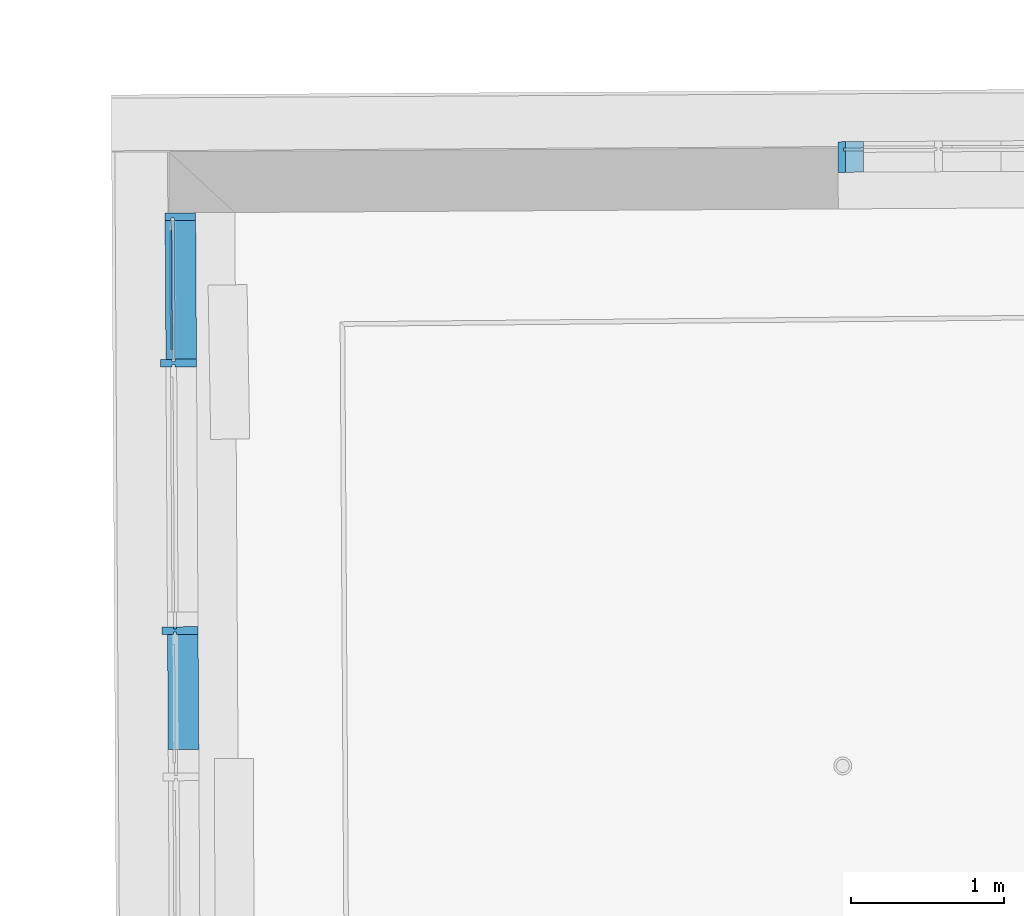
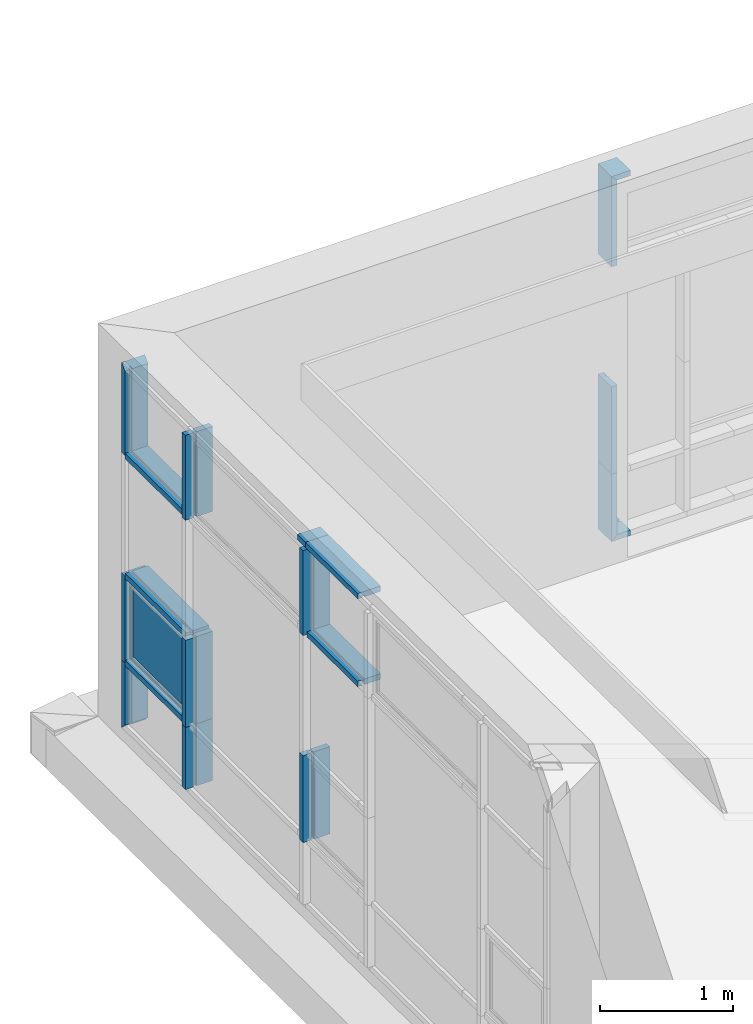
# One storey, part 126 of 158: 20 building element parts, 2 elements without a shape of their own.
"""IFC2X3 building model written with IfcOpenShell, lengths in metres."""

from ifc_helpers import new_model, entity, si_unit, converted_unit, derived_unit, money_unit, direction, frame, origin_with_axes, place, context, subcontext, project, spatial, faceted_brep, material, type_object, element, aggregate, save


model = new_model("IFC2X3")

# Units and contexts
model_context = context("Model", 3, precision=1e-05, world=origin_with_axes(), true_north=direction((0.0, 1.0)))
body_context = subcontext(model_context, "Body", "Model", "MODEL_VIEW")
ifc_project = project(units=[si_unit("LENGTHUNIT", "METRE"), si_unit("AREAUNIT", "SQUARE_METRE"), si_unit("VOLUMEUNIT", "CUBIC_METRE"), converted_unit("PLANEANGLEUNIT", "DEGREE", entity("IfcPlaneAngleMeasure", 0.0174532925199), si_unit("PLANEANGLEUNIT", "RADIAN"), dimensions=[0, 0, 0, 0, 0, 0, 0]), money_unit("EUR"), converted_unit("TIMEUNIT", "Year", entity("IfcTimeMeasure", 31556926.0), si_unit("TIMEUNIT", "SECOND"), dimensions=[0, 0, 1, 0, 0, 0, 0]), si_unit("MASSUNIT", "GRAM", prefix="KILO"), si_unit("THERMODYNAMICTEMPERATUREUNIT", "DEGREE_CELSIUS"), si_unit("LUMINOUSINTENSITYUNIT", "LUMEN"), si_unit("ENERGYUNIT", "JOULE", prefix="MEGA"), derived_unit("THERMALCONDUCTANCEUNIT", [(si_unit("POWERUNIT", "WATT"), 1), (si_unit("LENGTHUNIT", "METRE"), -1), (si_unit("THERMODYNAMICTEMPERATUREUNIT", "KELVIN"), -1)]), derived_unit("SPECIFICHEATCAPACITYUNIT", [(si_unit("ENERGYUNIT", "JOULE"), 1), (si_unit("MASSUNIT", "GRAM", prefix="KILO"), -1), (si_unit("THERMODYNAMICTEMPERATUREUNIT", "KELVIN"), -1)]), derived_unit("MASSDENSITYUNIT", [(si_unit("MASSUNIT", "GRAM", prefix="KILO"), 1), (si_unit("VOLUMEUNIT", "CUBIC_METRE"), -1)])], contexts=[model_context])

# Site, building, storey
site_placement = place(None, origin_with_axes())
site = spatial("IfcSite", under=ifc_project, at=site_placement, Name="Gelände", CompositionType="ELEMENT")
building_placement = place(site_placement, origin_with_axes())
building = spatial("IfcBuilding", under=site, at=building_placement, Name="Gebäude", CompositionType="ELEMENT")
storey_placement = place(building_placement, origin_with_axes())
storey = spatial("IfcBuildingStorey", under=building, at=storey_placement, Name="ERDGESCHOSS", CompositionType="ELEMENT", Elevation=0.0)

# Proxy, building element parts
building_element_proxy_type = type_object("IfcBuildingElementProxyType", Name="Fassadentyp", PredefinedType="NOTDEFINED")
proxy_1_placement = place(storey_placement, frame((-29.8344261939, 53.9291673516, 1.34043902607), z_axis=(0.0, 0.0, 1.0), x_axis=(1.0, 0.0, 0.0)))
proxy_1 = element("IfcBuildingElementProxy", 1, at=proxy_1_placement, inside=storey, type_object=building_element_proxy_type, Name="Fassade-002")
ifc_material_1 = material(Name="53_Metall, Aluminium")
building_element_part_1_placement = place(proxy_1_placement, origin_with_axes())
building_element_part_1 = element("IfcBuildingElementPart", 2, at=building_element_part_1_placement, material=ifc_material_1, Name="53_Metall, Aluminium", context=body_context, shape_type="Brep", body=[
    faceted_brep([(-0.702597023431, -0.0140975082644, 0.0349999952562), (-0.702713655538, 0.00590215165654, 0.0349999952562), (-0.687713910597, 0.00598962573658, 0.0499999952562), (-0.687947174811, 0.0459889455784, 0.0499999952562), (-0.737946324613, 0.0456973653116, -4.74376693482e-09), (-0.736780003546, -0.154299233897, -4.74376693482e-09), (-0.686780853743, -0.154007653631, 0.0499999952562), (-0.68759727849, -0.0140100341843, 0.0499999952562), (-0.571921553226, -0.013335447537, 0.0349999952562), (-0.572038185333, 0.00666421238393, 0.0349999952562), (-0.572038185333, 0.00666421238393, 0.0499999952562), (-0.572271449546, 0.0466635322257, 0.0499999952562), (-0.572271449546, 0.0466635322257, -4.74376693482e-09), (-0.571105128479, -0.153333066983, -4.74376693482e-09), (-0.571105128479, -0.153333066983, 0.0499999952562), (-0.571921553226, -0.013335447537, 0.0499999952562)], [[[0, 1, 2, 3, 4, 5, 6, 7]], [[1, 0, 8, 9]], [[10, 2, 1, 9]], [[2, 10, 11, 3]], [[12, 4, 3, 11]], [[13, 5, 4, 12]], [[14, 6, 5, 13]], [[15, 7, 6, 14]], [[0, 7, 15, 8]], [[8, 15, 14, 13, 12, 11, 10, 9]]]),
])
building_element_part_2_placement = place(proxy_1_placement, origin_with_axes())
building_element_part_2 = element("IfcBuildingElementPart", 3, at=building_element_part_2_placement, material=ifc_material_1, Name="53_Metall, Aluminium", context=body_context, shape_type="Brep", body=[
    faceted_brep([(-0.702597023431, -0.0140975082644, 3.31499994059), (-0.68759727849, -0.0140100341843, 3.29999994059), (-0.686780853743, -0.154007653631, 3.29999994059), (-0.736780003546, -0.154299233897, 3.34999994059), (-0.737946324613, 0.0456973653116, 3.34999994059), (-0.687947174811, 0.0459889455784, 3.29999994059), (-0.687713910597, 0.00598962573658, 3.29999994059), (-0.702713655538, 0.00590215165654, 3.31499994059), (-0.571921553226, -0.013335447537, 3.31499994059), (-0.571921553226, -0.013335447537, 3.29999994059), (-0.571105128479, -0.153333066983, 3.29999994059), (-0.571105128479, -0.153333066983, 3.34999994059), (-0.572271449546, 0.0466635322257, 3.34999994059), (-0.572271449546, 0.0466635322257, 3.29999994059), (-0.572038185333, 0.00666421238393, 3.29999994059), (-0.572038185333, 0.00666421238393, 3.31499994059)], [[[0, 1, 2, 3, 4, 5, 6, 7]], [[0, 8, 9, 1]], [[9, 10, 2, 1]], [[10, 11, 3, 2]], [[11, 12, 4, 3]], [[12, 13, 5, 4]], [[6, 5, 13, 14]], [[14, 15, 7, 6]], [[7, 15, 8, 0]], [[8, 15, 14, 13, 12, 11, 10, 9]]]),
])
building_element_part_3_placement = place(proxy_1_placement, origin_with_axes())
building_element_part_3 = element("IfcBuildingElementPart", 4, at=building_element_part_3_placement, material=ifc_material_1, Name="53_Metall, Aluminium", context=body_context, shape_type="Brep", body=[
    faceted_brep([(-0.702597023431, -0.0140975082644, 1.42000003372), (-0.702713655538, 0.00590215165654, 1.42000003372), (-0.687713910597, 0.00598962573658, 1.42000003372), (-0.687947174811, 0.0459889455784, 1.42000003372), (-0.737946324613, 0.0456973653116, 1.42000003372), (-0.736780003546, -0.154299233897, 1.42000003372), (-0.686780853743, -0.154007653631, 1.42000003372), (-0.68759727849, -0.0140100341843, 1.42000003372), (-0.702597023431, -0.0140975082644, 0.620000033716), (-0.702713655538, 0.00590215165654, 0.620000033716), (-0.687713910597, 0.00598962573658, 0.620000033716), (-0.687947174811, 0.0459889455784, 0.620000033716), (-0.737946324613, 0.0456973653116, 0.620000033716), (-0.736780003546, -0.154299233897, 0.620000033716), (-0.686780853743, -0.154007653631, 0.620000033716), (-0.68759727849, -0.0140100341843, 0.620000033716)], [[[0, 1, 2, 3, 4, 5, 6, 7]], [[1, 0, 8, 9]], [[10, 2, 1, 9]], [[2, 10, 11, 3]], [[12, 4, 3, 11]], [[13, 5, 4, 12]], [[14, 6, 5, 13]], [[15, 7, 6, 14]], [[0, 7, 15, 8]], [[8, 15, 14, 13, 12, 11, 10, 9]]]),
])
building_element_part_4_placement = place(proxy_1_placement, origin_with_axes())
building_element_part_4 = element("IfcBuildingElementPart", 5, at=building_element_part_4_placement, material=ifc_material_1, Name="53_Metall, Aluminium", context=body_context, shape_type="Brep", body=[
    faceted_brep([(-0.702597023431, -0.0140975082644, 0.620000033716), (-0.702713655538, 0.00590215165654, 0.620000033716), (-0.687713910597, 0.00598962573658, 0.620000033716), (-0.687947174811, 0.0459889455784, 0.620000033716), (-0.737946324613, 0.0456973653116, 0.620000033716), (-0.736780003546, -0.154299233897, 0.620000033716), (-0.686780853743, -0.154007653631, 0.620000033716), (-0.68759727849, -0.0140100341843, 0.620000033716), (-0.702597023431, -0.0140975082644, 0.0349999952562), (-0.702713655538, 0.00590215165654, 0.0349999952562), (-0.687713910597, 0.00598962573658, 0.0499999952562), (-0.687947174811, 0.0459889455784, 0.0499999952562), (-0.737946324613, 0.0456973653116, -4.74376649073e-09), (-0.736780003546, -0.154299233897, -4.74376848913e-09), (-0.686780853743, -0.154007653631, 0.0499999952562), (-0.68759727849, -0.0140100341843, 0.0499999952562)], [[[0, 1, 2, 3, 4, 5, 6, 7]], [[1, 0, 8, 9]], [[10, 2, 1, 9]], [[2, 10, 11, 3]], [[4, 3, 11, 12]], [[5, 4, 12, 13]], [[6, 5, 13, 14]], [[15, 7, 6, 14]], [[0, 7, 15, 8]], [[8, 15, 14, 13, 12, 11, 10, 9]]]),
])
building_element_part_5_placement = place(proxy_1_placement, origin_with_axes())
building_element_part_5 = element("IfcBuildingElementPart", 6, at=building_element_part_5_placement, material=ifc_material_1, Name="53_Metall, Aluminium", context=body_context, shape_type="Brep", body=[
    faceted_brep([(-0.702597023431, -0.0140975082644, 3.31499994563), (-0.702713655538, 0.00590215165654, 3.31499994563), (-0.687713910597, 0.00598962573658, 3.29999994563), (-0.687947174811, 0.0459889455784, 3.29999994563), (-0.737946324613, 0.0456973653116, 3.34999994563), (-0.736780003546, -0.154299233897, 3.34999994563), (-0.686780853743, -0.154007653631, 3.29999994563), (-0.68759727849, -0.0140100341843, 3.29999994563), (-0.702597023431, -0.0140975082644, 2.52000003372), (-0.702713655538, 0.00590215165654, 2.52000003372), (-0.687713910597, 0.00598962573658, 2.52000003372), (-0.687947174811, 0.0459889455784, 2.52000003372), (-0.737946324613, 0.0456973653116, 2.52000003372), (-0.736780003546, -0.154299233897, 2.52000003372), (-0.686780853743, -0.154007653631, 2.52000003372), (-0.68759727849, -0.0140100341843, 2.52000003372)], [[[0, 1, 2, 3, 4, 5, 6, 7]], [[1, 0, 8, 9]], [[10, 2, 1, 9]], [[2, 10, 11, 3]], [[12, 4, 3, 11]], [[13, 5, 4, 12]], [[14, 6, 5, 13]], [[15, 7, 6, 14]], [[0, 7, 15, 8]], [[8, 15, 14, 13, 12, 11, 10, 9]]]),
])
aggregate(proxy_1, [building_element_part_1, building_element_part_2, building_element_part_3, building_element_part_4, building_element_part_5])

proxy_2_placement = place(storey_placement, frame((-34.889376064, 47.589579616, 1.34043902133), z_axis=(0.0, 0.0, 1.0), x_axis=(1.0, 0.0, 0.0)))
proxy_2 = element("IfcBuildingElementProxy", 7, at=proxy_2_placement, inside=storey, type_object=building_element_proxy_type, Name="Fassade-002")
ifc_material_2 = material(Name="45_Glas, Normalglas")
building_element_part_6_placement = place(proxy_2_placement, origin_with_axes())
building_element_part_6 = element("IfcBuildingElementPart", 8, at=building_element_part_6_placement, material=ifc_material_2, Name="45_Glas, Normalglas", context=body_context, shape_type="Brep", body=[
    faceted_brep([(-0.0540455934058, 5.80499457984, 0.710000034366), (-0.0380458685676, 5.80508841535, 0.710000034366), (-0.0334856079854, 5.02752654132, 0.710000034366), (-0.0494853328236, 5.02743270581, 0.710000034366), (-0.0540455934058, 5.80499457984, 1.33000004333), (-0.0380458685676, 5.80508841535, 1.33000004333), (-0.0334856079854, 5.02752654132, 1.33000004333), (-0.0494853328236, 5.02743270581, 1.33000004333)], [[[0, 1, 2, 3]], [[4, 5, 1, 0]], [[1, 5, 6, 2]], [[3, 2, 6, 7]], [[0, 3, 7, 4]], [[7, 6, 5, 4]]]),
])
building_element_part_7_placement = place(proxy_2_placement, origin_with_axes())
building_element_part_7 = element("IfcBuildingElementPart", 9, at=building_element_part_7_placement, material=ifc_material_1, Name="53_Metall, Aluminium", context=body_context, shape_type="Brep", body=[
    faceted_brep([(-0.0245152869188, 5.88516915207, 1.42000003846), (-0.0244273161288, 5.87016941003, 1.42000003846), (0.115570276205, 5.87099047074, 1.42000003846), (0.115277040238, 5.92098961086, 1.42000003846), (-0.0847195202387, 5.91981666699, 1.42000003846), (-0.084426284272, 5.86981752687, 1.42000003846), (-0.0444269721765, 5.87005211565, 1.42000003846), (-0.0445149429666, 5.88505185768, 1.42000003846), (-0.0245152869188, 5.88516915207, 0.620000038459), (-0.0244273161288, 5.87016941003, 0.620000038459), (0.115570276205, 5.87099047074, 0.620000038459), (0.115277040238, 5.92098961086, 0.620000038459), (-0.0847195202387, 5.91981666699, 0.620000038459), (-0.084426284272, 5.86981752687, 0.620000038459), (-0.0444269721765, 5.87005211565, 0.620000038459), (-0.0445149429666, 5.88505185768, 0.620000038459)], [[[0, 1, 2, 3, 4, 5, 6, 7]], [[0, 8, 9, 1]], [[9, 10, 2, 1]], [[10, 11, 3, 2]], [[11, 12, 4, 3]], [[12, 13, 5, 4]], [[6, 5, 13, 14]], [[14, 15, 7, 6]], [[7, 15, 8, 0]], [[8, 15, 14, 13, 12, 11, 10, 9]]]),
])
building_element_part_8_placement = place(proxy_2_placement, origin_with_axes())
building_element_part_8 = element("IfcBuildingElementPart", 10, at=building_element_part_8_placement, material=ifc_material_1, Name="53_Metall, Aluminium", context=body_context, shape_type="Brep", body=[
    faceted_brep([(-0.00412493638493, 2.40844695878, 2.51000003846), (-0.00412493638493, 2.40844695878, 2.49500003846), (0.135872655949, 2.40926801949, 2.49500003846), (0.135872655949, 2.40926801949, 2.54500003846), (-0.00412493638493, 2.40844695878, 2.54500003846), (-0.00412493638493, 2.40844695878, 2.53000003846), (-0.0241245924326, 2.40832966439, 2.53000003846), (-0.0241245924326, 2.40832966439, 2.54500003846), (-0.0641239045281, 2.40809507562, 2.54500003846), (-0.0641239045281, 2.40809507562, 2.49500003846), (-0.0241245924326, 2.40832966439, 2.49500003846), (-0.0241245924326, 2.40832966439, 2.51000003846), (-0.00854676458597, 3.16240497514, 2.51000003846), (-0.00854676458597, 3.16240497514, 2.49500003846), (0.131450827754, 3.16322603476, 2.49500003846), (0.131450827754, 3.16322603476, 2.54500003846), (-0.00854676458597, 3.16240497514, 2.54500003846), (-0.00854676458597, 3.16240497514, 2.53000003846), (-0.0285464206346, 3.16228768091, 2.53000003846), (-0.0285464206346, 3.16228768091, 2.54500003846), (-0.0685457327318, 3.16205309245, 2.54500003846), (-0.0685457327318, 3.16205309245, 2.49500003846), (-0.0285464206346, 3.16228768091, 2.49500003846), (-0.0285464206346, 3.16228768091, 2.51000003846)], [[[0, 1, 2, 3, 4, 5, 6, 7, 8, 9, 10, 11]], [[1, 0, 12, 13]], [[1, 13, 14, 2]], [[2, 14, 15, 3]], [[4, 3, 15, 16]], [[4, 16, 17, 5]], [[5, 17, 18, 6]], [[7, 6, 18, 19]], [[19, 20, 8, 7]], [[8, 20, 21, 9]], [[22, 10, 9, 21]], [[11, 10, 22, 23]], [[0, 11, 23, 12]], [[23, 22, 21, 20, 19, 18, 17, 16, 15, 14, 13, 12]]]),
])
building_element_part_9_placement = place(proxy_2_placement, origin_with_axes())
building_element_part_9 = element("IfcBuildingElementPart", 11, at=building_element_part_9_placement, material=ifc_material_1, Name="53_Metall, Aluminium", context=body_context, shape_type="Brep", body=[
    faceted_brep([(-0.0086347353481, 3.17740471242, 1.42000003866), (-0.00854676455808, 3.16240497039, 1.42000003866), (0.131450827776, 3.16322603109, 1.42000003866), (0.131157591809, 3.21322517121, 1.42000003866), (-0.00884000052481, 3.2124041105, 1.42000003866), (-0.00875202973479, 3.19740436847, 1.42000003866), (-0.0287516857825, 3.19728707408, 1.42000003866), (-0.0288396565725, 3.21228681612, 1.42000003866), (-0.103838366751, 3.21184696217, 1.42000003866), (-0.103545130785, 3.16184782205, 1.42000003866), (-0.0285464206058, 3.162287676, 1.42000003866), (-0.0286343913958, 3.17728741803, 1.42000003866), (-0.0086347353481, 3.17740471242, 0.620000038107), (-0.00854676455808, 3.16240497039, 0.620000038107), (0.131450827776, 3.16322603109, 0.620000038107), (0.131157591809, 3.21322517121, 0.620000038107), (-0.00884000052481, 3.2124041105, 0.620000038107), (-0.00875202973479, 3.19740436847, 0.620000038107), (-0.0287516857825, 3.19728707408, 0.620000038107), (-0.0288396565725, 3.21228681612, 0.620000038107), (-0.103838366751, 3.21184696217, 0.620000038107), (-0.103545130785, 3.16184782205, 0.620000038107), (-0.0285464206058, 3.162287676, 0.620000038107), (-0.0286343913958, 3.17728741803, 0.620000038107)], [[[0, 1, 2, 3, 4, 5, 6, 7, 8, 9, 10, 11]], [[1, 0, 12, 13]], [[1, 13, 14, 2]], [[3, 2, 14, 15]], [[4, 3, 15, 16]], [[4, 16, 17, 5]], [[5, 17, 18, 6]], [[7, 6, 18, 19]], [[19, 20, 8, 7]], [[9, 8, 20, 21]], [[22, 10, 9, 21]], [[11, 10, 22, 23]], [[0, 11, 23, 12]], [[23, 22, 21, 20, 19, 18, 17, 16, 15, 14, 13, 12]]]),
])
building_element_part_10_placement = place(proxy_2_placement, origin_with_axes())
building_element_part_10 = element("IfcBuildingElementPart", 12, at=building_element_part_10_placement, material=ifc_material_1, Name="53_Metall, Aluminium", context=body_context, shape_type="Brep", body=[
    faceted_brep([(-0.0245152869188, 5.88516915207, 0.620000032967), (-0.0244273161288, 5.87016941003, 0.620000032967), (0.115570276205, 5.87099047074, 0.620000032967), (0.115277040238, 5.92098961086, 0.620000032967), (-0.0847195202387, 5.91981666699, 0.620000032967), (-0.084426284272, 5.86981752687, 0.620000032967), (-0.0444269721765, 5.87005211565, 0.620000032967), (-0.0445149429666, 5.88505185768, 0.620000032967), (-0.0245152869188, 5.88516915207, 0.0349999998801), (-0.0244273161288, 5.87016941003, 0.0499999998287), (0.115570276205, 5.87099047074, 0.0499999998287), (0.115277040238, 5.92098961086, 0.0), (-0.0847195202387, 5.91981666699, 0.0), (-0.084426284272, 5.86981752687, 0.0499999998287), (-0.0444269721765, 5.87005211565, 0.0499999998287), (-0.0445149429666, 5.88505185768, 0.0349999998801)], [[[0, 1, 2, 3, 4, 5, 6, 7]], [[0, 8, 9, 1]], [[9, 10, 2, 1]], [[2, 10, 11, 3]], [[3, 11, 12, 4]], [[4, 12, 13, 5]], [[6, 5, 13, 14]], [[14, 15, 7, 6]], [[7, 15, 8, 0]], [[8, 15, 14, 13, 12, 11, 10, 9]]]),
])
building_element_part_11_placement = place(proxy_2_placement, origin_with_axes())
building_element_part_11 = element("IfcBuildingElementPart", 13, at=building_element_part_11_placement, material=ifc_material_1, Name="53_Metall, Aluminium", context=body_context, shape_type="Brep", body=[
    faceted_brep([(-0.00869338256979, 3.18740454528, 3.31499990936), (-0.00869338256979, 3.18740454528, 3.29999990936), (0.131304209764, 3.18822560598, 3.29999990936), (0.131304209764, 3.18822560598, 3.34999990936), (-0.0686923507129, 3.18705266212, 3.34999990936), (-0.0686923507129, 3.18705266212, 3.29999990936), (-0.0286930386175, 3.18728725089, 3.29999990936), (-0.0286930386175, 3.18728725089, 3.31499990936), (-0.00940318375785, 3.30843147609, 3.31499990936), (-0.00940318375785, 3.30843147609, 3.29999990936), (0.130594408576, 3.3092525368, 3.29999990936), (0.130594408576, 3.3092525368, 3.34999990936), (-0.069402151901, 3.30807959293, 3.34999990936), (-0.069402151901, 3.30807959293, 3.29999990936), (-0.0294028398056, 3.30831418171, 3.29999990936), (-0.0294028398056, 3.30831418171, 3.31499990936)], [[[0, 1, 2, 3, 4, 5, 6, 7]], [[0, 8, 9, 1]], [[9, 10, 2, 1]], [[10, 11, 3, 2]], [[11, 12, 4, 3]], [[12, 13, 5, 4]], [[6, 5, 13, 14]], [[14, 15, 7, 6]], [[7, 15, 8, 0]], [[8, 15, 14, 13, 12, 11, 10, 9]]]),
])
building_element_part_12_placement = place(proxy_2_placement, origin_with_axes())
building_element_part_12 = element("IfcBuildingElementPart", 14, at=building_element_part_12_placement, material=ifc_material_1, Name="53_Metall, Aluminium", context=body_context, shape_type="Brep", body=[
    faceted_brep([(-0.00863473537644, 3.17740471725, 3.29999990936), (-0.00854676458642, 3.16240497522, 3.29999990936), (0.131450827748, 3.16322603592, 3.29999990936), (0.131157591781, 3.21322517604, 3.29999990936), (-0.00884000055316, 3.21240411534, 3.29999990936), (-0.00875202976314, 3.1974043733, 3.29999990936), (-0.0287516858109, 3.19728707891, 3.29999990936), (-0.0288396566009, 3.21228682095, 3.29999990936), (-0.10383836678, 3.211846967, 3.29999990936), (-0.103545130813, 3.16184782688, 3.29999990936), (-0.0285464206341, 3.16228768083, 3.29999990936), (-0.0286343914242, 3.17728742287, 3.29999990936), (-0.00863473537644, 3.17740471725, 2.52000003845), (-0.00854676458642, 3.16240497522, 2.52000003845), (0.131450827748, 3.16322603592, 2.52000003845), (0.131157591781, 3.21322517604, 2.52000003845), (-0.00884000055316, 3.21240411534, 2.52000003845), (-0.00875202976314, 3.1974043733, 2.52000003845), (-0.0287516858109, 3.19728707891, 2.52000003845), (-0.0288396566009, 3.21228682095, 2.52000003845), (-0.10383836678, 3.211846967, 2.52000003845), (-0.103545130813, 3.16184782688, 2.52000003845), (-0.0285464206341, 3.16228768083, 2.52000003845), (-0.0286343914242, 3.17728742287, 2.52000003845)], [[[0, 1, 2, 3, 4, 5, 6, 7, 8, 9, 10, 11]], [[1, 0, 12, 13]], [[1, 13, 14, 2]], [[3, 2, 14, 15]], [[4, 3, 15, 16]], [[4, 16, 17, 5]], [[5, 17, 18, 6]], [[7, 6, 18, 19]], [[19, 20, 8, 7]], [[9, 8, 20, 21]], [[22, 10, 9, 21]], [[11, 10, 22, 23]], [[0, 11, 23, 12]], [[23, 22, 21, 20, 19, 18, 17, 16, 15, 14, 13, 12]]]),
])
building_element_part_13_placement = place(proxy_2_placement, origin_with_axes())
building_element_part_13 = element("IfcBuildingElementPart", 15, at=building_element_part_13_placement, material=ifc_material_1, Name="53_Metall, Aluminium", context=body_context, shape_type="Brep", body=[
    faceted_brep([(-0.0191046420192, 4.96260976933, 0.610000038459), (-0.0191046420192, 4.96260976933, 0.595000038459), (0.120892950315, 4.96343083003, 0.595000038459), (0.120892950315, 4.96343083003, 0.645000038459), (-0.0191046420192, 4.96260976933, 0.645000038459), (-0.0191046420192, 4.96260976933, 0.630000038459), (-0.039104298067, 4.96249247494, 0.630000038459), (-0.039104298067, 4.96249247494, 0.645000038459), (-0.0791036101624, 4.96225788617, 0.645000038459), (-0.0791036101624, 4.96225788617, 0.595000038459), (-0.039104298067, 4.96249247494, 0.595000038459), (-0.039104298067, 4.96249247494, 0.610000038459), (-0.0244273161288, 5.87016941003, 0.610000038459), (-0.0244273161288, 5.87016941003, 0.595000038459), (0.115570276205, 5.87099047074, 0.595000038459), (0.115570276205, 5.87099047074, 0.645000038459), (-0.0244273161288, 5.87016941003, 0.645000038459), (-0.0244273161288, 5.87016941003, 0.630000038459), (-0.0444269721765, 5.87005211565, 0.630000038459), (-0.0444269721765, 5.87005211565, 0.645000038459), (-0.084426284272, 5.86981752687, 0.645000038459), (-0.084426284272, 5.86981752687, 0.595000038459), (-0.0444269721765, 5.87005211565, 0.595000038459), (-0.0444269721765, 5.87005211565, 0.610000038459)], [[[0, 1, 2, 3, 4, 5, 6, 7, 8, 9, 10, 11]], [[1, 0, 12, 13]], [[1, 13, 14, 2]], [[2, 14, 15, 3]], [[4, 3, 15, 16]], [[4, 16, 17, 5]], [[5, 17, 18, 6]], [[7, 6, 18, 19]], [[19, 20, 8, 7]], [[8, 20, 21, 9]], [[22, 10, 9, 21]], [[11, 10, 22, 23]], [[0, 11, 23, 12]], [[23, 22, 21, 20, 19, 18, 17, 16, 15, 14, 13, 12]]]),
])
building_element_part_14_placement = place(proxy_2_placement, origin_with_axes())
building_element_part_14 = element("IfcBuildingElementPart", 16, at=building_element_part_14_placement, material=ifc_material_1, Name="53_Metall, Aluminium", context=body_context, shape_type="Brep", body=[
    faceted_brep([(-0.0188993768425, 4.92761037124, 1.42000003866), (-0.0188114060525, 4.91261062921, 1.42000003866), (0.121186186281, 4.91343168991, 1.42000003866), (0.120892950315, 4.96343083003, 1.42000003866), (-0.0191046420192, 4.96260976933, 1.42000003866), (-0.0190166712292, 4.94761002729, 1.42000003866), (-0.0390163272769, 4.9474927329, 1.42000003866), (-0.039104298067, 4.96249247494, 1.42000003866), (-0.114103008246, 4.96205262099, 1.42000003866), (-0.113809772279, 4.91205348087, 1.42000003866), (-0.0388110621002, 4.91249333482, 1.42000003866), (-0.0388990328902, 4.92749307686, 1.42000003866), (-0.0188993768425, 4.92761037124, 0.620000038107), (-0.0188114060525, 4.91261062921, 0.620000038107), (0.121186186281, 4.91343168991, 0.620000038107), (0.120892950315, 4.96343083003, 0.620000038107), (-0.0191046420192, 4.96260976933, 0.620000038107), (-0.0190166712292, 4.94761002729, 0.620000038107), (-0.0390163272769, 4.9474927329, 0.620000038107), (-0.039104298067, 4.96249247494, 0.620000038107), (-0.114103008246, 4.96205262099, 0.620000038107), (-0.113809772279, 4.91205348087, 0.620000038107), (-0.0388110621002, 4.91249333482, 0.620000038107), (-0.0388990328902, 4.92749307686, 0.620000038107)], [[[0, 1, 2, 3, 4, 5, 6, 7, 8, 9, 10, 11]], [[1, 0, 12, 13]], [[1, 13, 14, 2]], [[3, 2, 14, 15]], [[4, 3, 15, 16]], [[4, 16, 17, 5]], [[5, 17, 18, 6]], [[7, 6, 18, 19]], [[19, 20, 8, 7]], [[9, 8, 20, 21]], [[22, 10, 9, 21]], [[11, 10, 22, 23]], [[0, 11, 23, 12]], [[23, 22, 21, 20, 19, 18, 17, 16, 15, 14, 13, 12]]]),
])
building_element_part_15_placement = place(proxy_2_placement, origin_with_axes())
building_element_part_15 = element("IfcBuildingElementPart", 17, at=building_element_part_15_placement, material=ifc_material_1, Name="53_Metall, Aluminium", context=body_context, shape_type="Brep", body=[
    faceted_brep([(-0.0191046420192, 4.96260976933, 1.41000003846), (-0.0191046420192, 4.96260976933, 1.39500003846), (0.120892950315, 4.96343083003, 1.39500003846), (0.120892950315, 4.96343083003, 1.44500003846), (-0.0191046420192, 4.96260976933, 1.44500003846), (-0.0191046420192, 4.96260976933, 1.43000003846), (-0.039104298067, 4.96249247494, 1.43000003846), (-0.039104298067, 4.96249247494, 1.44500003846), (-0.0791036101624, 4.96225788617, 1.44500003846), (-0.0791036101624, 4.96225788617, 1.39500003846), (-0.039104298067, 4.96249247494, 1.39500003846), (-0.039104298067, 4.96249247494, 1.41000003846), (-0.0244273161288, 5.87016941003, 1.41000003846), (-0.0244273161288, 5.87016941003, 1.39500003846), (0.115570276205, 5.87099047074, 1.39500003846), (0.115570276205, 5.87099047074, 1.44500003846), (-0.0244273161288, 5.87016941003, 1.44500003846), (-0.0244273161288, 5.87016941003, 1.43000003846), (-0.0444269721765, 5.87005211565, 1.43000003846), (-0.0444269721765, 5.87005211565, 1.44500003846), (-0.084426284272, 5.86981752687, 1.44500003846), (-0.084426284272, 5.86981752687, 1.39500003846), (-0.0444269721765, 5.87005211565, 1.39500003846), (-0.0444269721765, 5.87005211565, 1.41000003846)], [[[0, 1, 2, 3, 4, 5, 6, 7, 8, 9, 10, 11]], [[1, 0, 12, 13]], [[1, 13, 14, 2]], [[2, 14, 15, 3]], [[4, 3, 15, 16]], [[4, 16, 17, 5]], [[5, 17, 18, 6]], [[7, 6, 18, 19]], [[19, 20, 8, 7]], [[8, 20, 21, 9]], [[22, 10, 9, 21]], [[11, 10, 22, 23]], [[0, 11, 23, 12]], [[23, 22, 21, 20, 19, 18, 17, 16, 15, 14, 13, 12]]]),
])
building_element_part_16_placement = place(proxy_2_placement, origin_with_axes())
building_element_part_16 = element("IfcBuildingElementPart", 18, at=building_element_part_16_placement, material=ifc_material_1, Name="53_Metall, Aluminium", context=body_context, shape_type="Brep", body=[
    faceted_brep([(-0.0188993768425, 4.92761037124, 3.29999990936), (-0.0188114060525, 4.91261062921, 3.29999990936), (0.121186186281, 4.91343168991, 3.29999990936), (0.120892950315, 4.96343083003, 3.29999990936), (-0.0191046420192, 4.96260976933, 3.29999990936), (-0.0190166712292, 4.94761002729, 3.29999990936), (-0.0390163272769, 4.9474927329, 3.29999990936), (-0.039104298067, 4.96249247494, 3.29999990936), (-0.114103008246, 4.96205262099, 3.29999990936), (-0.113809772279, 4.91205348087, 3.29999990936), (-0.0388110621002, 4.91249333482, 3.29999990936), (-0.0388990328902, 4.92749307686, 3.29999990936), (-0.0188993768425, 4.92761037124, 2.52000003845), (-0.0188114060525, 4.91261062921, 2.52000003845), (0.121186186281, 4.91343168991, 2.52000003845), (0.120892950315, 4.96343083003, 2.52000003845), (-0.0191046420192, 4.96260976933, 2.52000003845), (-0.0190166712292, 4.94761002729, 2.52000003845), (-0.0390163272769, 4.9474927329, 2.52000003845), (-0.039104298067, 4.96249247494, 2.52000003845), (-0.114103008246, 4.96205262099, 2.52000003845), (-0.113809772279, 4.91205348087, 2.52000003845), (-0.0388110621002, 4.91249333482, 2.52000003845), (-0.0388990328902, 4.92749307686, 2.52000003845)], [[[0, 1, 2, 3, 4, 5, 6, 7, 8, 9, 10, 11]], [[1, 0, 12, 13]], [[1, 13, 14, 2]], [[3, 2, 14, 15]], [[4, 3, 15, 16]], [[4, 16, 17, 5]], [[5, 17, 18, 6]], [[7, 6, 18, 19]], [[19, 20, 8, 7]], [[9, 8, 20, 21]], [[22, 10, 9, 21]], [[11, 10, 22, 23]], [[0, 11, 23, 12]], [[23, 22, 21, 20, 19, 18, 17, 16, 15, 14, 13, 12]]]),
])
building_element_part_17_placement = place(proxy_2_placement, origin_with_axes())
building_element_part_17 = element("IfcBuildingElementPart", 19, at=building_element_part_17_placement, material=ifc_material_1, Name="53_Metall, Aluminium", context=body_context, shape_type="Brep", body=[
    faceted_brep([(-0.0191046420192, 4.96260976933, 2.51000003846), (-0.0191046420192, 4.96260976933, 2.49500003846), (0.120892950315, 4.96343083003, 2.49500003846), (0.120892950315, 4.96343083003, 2.54500003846), (-0.0191046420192, 4.96260976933, 2.54500003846), (-0.0191046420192, 4.96260976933, 2.53000003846), (-0.039104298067, 4.96249247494, 2.53000003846), (-0.039104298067, 4.96249247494, 2.54500003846), (-0.0791036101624, 4.96225788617, 2.54500003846), (-0.0791036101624, 4.96225788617, 2.49500003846), (-0.039104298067, 4.96249247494, 2.49500003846), (-0.039104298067, 4.96249247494, 2.51000003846), (-0.0244273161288, 5.87016941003, 2.51000003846), (-0.0244273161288, 5.87016941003, 2.49500003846), (0.115570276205, 5.87099047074, 2.49500003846), (0.115570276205, 5.87099047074, 2.54500003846), (-0.0244273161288, 5.87016941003, 2.54500003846), (-0.0244273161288, 5.87016941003, 2.53000003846), (-0.0444269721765, 5.87005211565, 2.53000003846), (-0.0444269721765, 5.87005211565, 2.54500003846), (-0.084426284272, 5.86981752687, 2.54500003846), (-0.084426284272, 5.86981752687, 2.49500003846), (-0.0444269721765, 5.87005211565, 2.49500003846), (-0.0444269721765, 5.87005211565, 2.51000003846)], [[[0, 1, 2, 3, 4, 5, 6, 7, 8, 9, 10, 11]], [[1, 0, 12, 13]], [[1, 13, 14, 2]], [[2, 14, 15, 3]], [[4, 3, 15, 16]], [[4, 16, 17, 5]], [[5, 17, 18, 6]], [[7, 6, 18, 19]], [[19, 20, 8, 7]], [[8, 20, 21, 9]], [[22, 10, 9, 21]], [[11, 10, 22, 23]], [[0, 11, 23, 12]], [[23, 22, 21, 20, 19, 18, 17, 16, 15, 14, 13, 12]]]),
])
building_element_part_18_placement = place(proxy_2_placement, origin_with_axes())
building_element_part_18 = element("IfcBuildingElementPart", 20, at=building_element_part_18_placement, material=ifc_material_1, Name="53_Metall, Aluminium", context=body_context, shape_type="Brep", body=[
    faceted_brep([(-0.0188993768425, 4.92761037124, 0.620000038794), (-0.0188114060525, 4.91261062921, 0.620000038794), (0.121186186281, 4.91343168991, 0.620000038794), (0.120892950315, 4.96343083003, 0.620000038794), (-0.0191046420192, 4.96260976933, 0.620000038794), (-0.0190166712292, 4.94761002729, 0.620000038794), (-0.0390163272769, 4.9474927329, 0.620000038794), (-0.039104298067, 4.96249247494, 0.620000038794), (-0.114103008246, 4.96205262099, 0.620000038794), (-0.113809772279, 4.91205348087, 0.620000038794), (-0.0388110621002, 4.91249333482, 0.620000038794), (-0.0388990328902, 4.92749307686, 0.620000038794), (-0.0188993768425, 4.92761037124, 0.0500000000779), (-0.0188114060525, 4.91261062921, 0.0500000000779), (0.121186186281, 4.91343168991, 0.0500000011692), (0.120892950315, 4.96343083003, 0.0500000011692), (-0.0191046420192, 4.96260976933, 0.0500000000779), (-0.0190166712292, 4.94761002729, 0.0500000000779), (-0.0390163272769, 4.9474927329, 0.0499999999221), (-0.039104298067, 4.96249247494, 0.0499999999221), (-0.114103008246, 4.96205262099, 0.0499999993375), (-0.113809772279, 4.91205348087, 0.0499999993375), (-0.0388110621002, 4.91249333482, 0.0499999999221), (-0.0388990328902, 4.92749307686, 0.0499999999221)], [[[0, 1, 2, 3, 4, 5, 6, 7, 8, 9, 10, 11]], [[1, 0, 12, 13]], [[1, 13, 14, 2]], [[2, 14, 15, 3]], [[4, 3, 15, 16]], [[4, 16, 17, 5]], [[5, 17, 18, 6]], [[7, 6, 18, 19]], [[19, 20, 8, 7]], [[8, 20, 21, 9]], [[22, 10, 9, 21]], [[11, 10, 22, 23]], [[0, 11, 23, 12]], [[23, 22, 21, 20, 19, 18, 17, 16, 15, 14, 13, 12]]]),
])
building_element_part_19_placement = place(proxy_2_placement, origin_with_axes())
building_element_part_19 = element("IfcBuildingElementPart", 21, at=building_element_part_19_placement, material=ifc_material_1, Name="53_Metall, Aluminium", context=body_context, shape_type="Brep", body=[
    faceted_brep([(-0.00412493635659, 2.40844695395, 3.31499990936), (-0.00412493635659, 2.40844695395, 3.29999990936), (0.135872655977, 2.40926801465, 3.29999990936), (0.135872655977, 2.40926801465, 3.34999990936), (-0.0641239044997, 2.40809507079, 3.34999990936), (-0.0641239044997, 2.40809507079, 3.29999990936), (-0.0241245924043, 2.40832965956, 3.29999990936), (-0.0241245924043, 2.40832965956, 3.31499990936), (-0.00869338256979, 3.18740454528, 3.31499990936), (-0.00869338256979, 3.18740454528, 3.29999990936), (0.131304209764, 3.18822560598, 3.29999990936), (0.131304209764, 3.18822560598, 3.34999990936), (-0.0686923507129, 3.18705266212, 3.34999990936), (-0.0686923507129, 3.18705266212, 3.29999990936), (-0.0286930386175, 3.18728725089, 3.29999990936), (-0.0286930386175, 3.18728725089, 3.31499990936)], [[[0, 1, 2, 3, 4, 5, 6, 7]], [[0, 8, 9, 1]], [[9, 10, 2, 1]], [[10, 11, 3, 2]], [[11, 12, 4, 3]], [[12, 13, 5, 4]], [[6, 5, 13, 14]], [[14, 15, 7, 6]], [[7, 15, 8, 0]], [[8, 15, 14, 13, 12, 11, 10, 9]]]),
])
building_element_part_20_placement = place(proxy_2_placement, origin_with_axes())
building_element_part_20 = element("IfcBuildingElementPart", 22, at=building_element_part_20_placement, material=ifc_material_1, Name="53_Metall, Aluminium", context=body_context, shape_type="Brep", body=[
    faceted_brep([(-0.0245152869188, 5.88516915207, 3.31499995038), (-0.0244273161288, 5.87016941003, 3.29999995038), (0.115570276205, 5.87099047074, 3.29999995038), (0.115277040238, 5.92098961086, 3.34999995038), (-0.0847195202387, 5.91981666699, 3.34999995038), (-0.084426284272, 5.86981752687, 3.29999995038), (-0.0444269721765, 5.87005211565, 3.29999995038), (-0.0445149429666, 5.88505185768, 3.31499995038), (-0.0245152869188, 5.88516915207, 2.52000003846), (-0.0244273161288, 5.87016941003, 2.52000003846), (0.115570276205, 5.87099047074, 2.52000003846), (0.115277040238, 5.92098961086, 2.52000003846), (-0.0847195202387, 5.91981666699, 2.52000003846), (-0.084426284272, 5.86981752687, 2.52000003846), (-0.0444269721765, 5.87005211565, 2.52000003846), (-0.0445149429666, 5.88505185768, 2.52000003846)], [[[0, 1, 2, 3, 4, 5, 6, 7]], [[0, 8, 9, 1]], [[9, 10, 2, 1]], [[10, 11, 3, 2]], [[11, 12, 4, 3]], [[12, 13, 5, 4]], [[6, 5, 13, 14]], [[14, 15, 7, 6]], [[7, 15, 8, 0]], [[8, 15, 14, 13, 12, 11, 10, 9]]]),
])
aggregate(proxy_2, [building_element_part_6, building_element_part_7, building_element_part_8, building_element_part_9, building_element_part_10, building_element_part_11, building_element_part_12, building_element_part_13, building_element_part_14, building_element_part_15, building_element_part_16, building_element_part_17, building_element_part_18, building_element_part_19, building_element_part_20])

save(model, "model.ifc")
